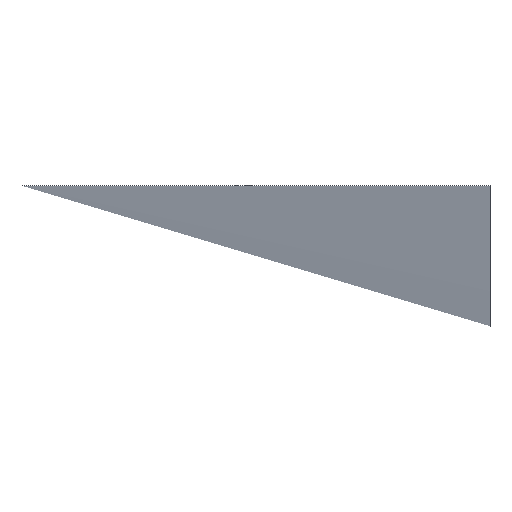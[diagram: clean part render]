
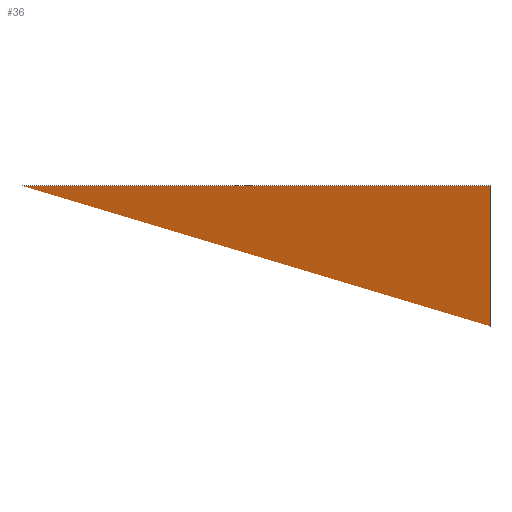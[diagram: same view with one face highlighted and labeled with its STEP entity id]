
A CAD part, front view. The second image highlights one B-rep face of the part: STEP entity #36.
In plain terms, the highlighted conical face has half-angle 75.069 degrees and reference radius 50 mm.
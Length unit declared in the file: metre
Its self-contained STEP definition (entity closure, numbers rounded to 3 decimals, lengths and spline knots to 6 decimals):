
#16=CIRCLE('',#53,0.05);
#17=ORIENTED_EDGE('',*,*,#23,.F.);
#18=ORIENTED_EDGE('',*,*,#24,.T.);
#23=EDGE_CURVE('',#26,#27,#28,.T.);
#24=EDGE_CURVE('',#26,#27,#16,.F.);
#26=VERTEX_POINT('',#73);
#27=VERTEX_POINT('',#74);
#28=B_SPLINE_CURVE_WITH_KNOTS('',3,(#69,#70,#71,#72),.UNSPECIFIED.,.F.,
 .F.,(4,4),(0.044154,0.049323),.UNSPECIFIED.);
#29=EDGE_LOOP('',(#17,#18));
#32=FACE_BOUND('',#29,.T.);
#35=CONICAL_SURFACE('',#52,0.05,1.31);
#36=ADVANCED_FACE('',(#32),#35,.T.);
#52=AXIS2_PLACEMENT_3D('',#68,#58,#59);
#53=AXIS2_PLACEMENT_3D('',#75,#60,#61);
#58=DIRECTION('',(0.,0.,1.));
#59=DIRECTION('',(1.,0.,0.));
#60=DIRECTION('',(0.,0.,1.));
#61=DIRECTION('',(1.,0.,0.));
#68=CARTESIAN_POINT('',(0.013,0.008663,0.01));
#69=CARTESIAN_POINT('',(-0.036933,0.006075,0.01));
#70=CARTESIAN_POINT('',(-0.036933,0.007799,0.009976));
#71=CARTESIAN_POINT('',(-0.036933,0.009524,0.009976));
#72=CARTESIAN_POINT('',(-0.036933,0.01125,0.01));
#73=CARTESIAN_POINT('',(-0.036933,0.006075,0.01));
#74=CARTESIAN_POINT('',(-0.036933,0.01125,0.01));
#75=CARTESIAN_POINT('',(0.013,0.008663,0.01));
